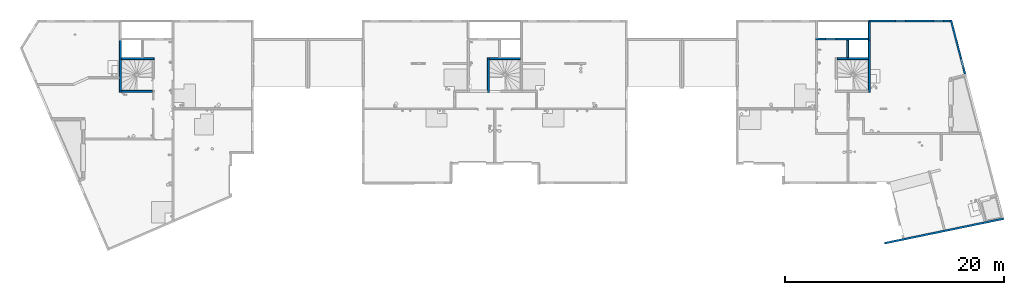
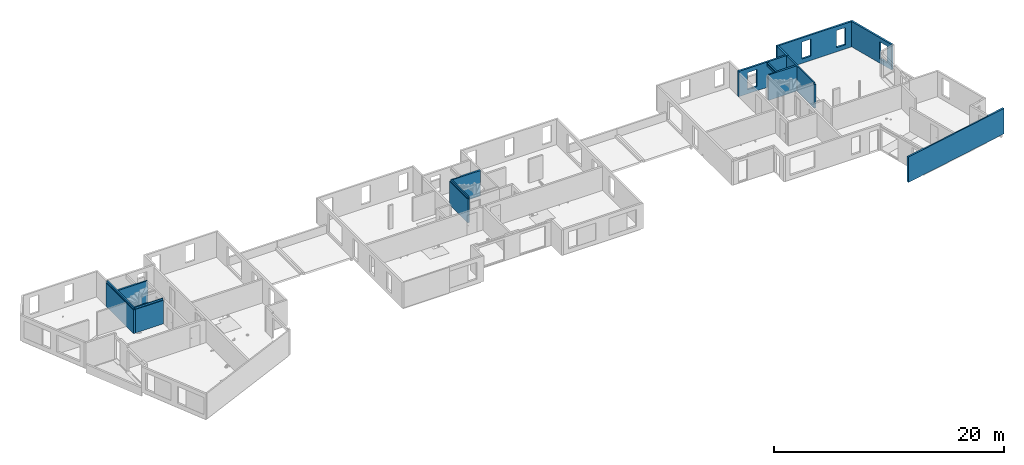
# One storey, part 16 of 24: 13 walls, 9 openings.
"""IFC2X3 building model written with IfcOpenShell, lengths in centimetres."""

import ifcopenshell
import ifcopenshell.guid

model = None  # the IFC model being written
_history = None  # IfcOwnerHistory: only IFC2X3 demands one
_inside = {}  # id of a spatial element -> (the spatial element, [elements in it])
_under = {}  # id of a project, library or spatial element -> (it, [spatial elements below it])
_declared = {}  # id of a project -> (the project, [libraries it declares])
_typed = {}  # id of a type object -> (the type object, [elements of that type])
_made_of = {}  # id of a material, layer set ... -> (it, [elements and type objects made of it])


def new_model(schema):
    """Start an empty IFC model of exactly this schema.

    Asked for "IFC4X3", IfcOpenShell would pick the latest addendum, in which some entities
    have other attributes; the version numbers below select the first issue.
    IFC2X3 requires an IfcOwnerHistory on every rooted entity: one is made here for all.
    """
    global model, _history
    if schema == "IFC4X3":
        model = ifcopenshell.file(schema_version=(4, 3, 0, 0))
    else:
        model = ifcopenshell.file(schema=schema)
    _inside.clear()
    _under.clear()
    _declared.clear()
    _typed.clear()
    _made_of.clear()
    _history = None
    if model.schema == "IFC2X3":
        org = make("IfcOrganization", Name="unknown")
        user = make(
            "IfcPersonAndOrganization",
            ThePerson=make("IfcPerson", FamilyName="unknown"),
            TheOrganization=org,
        )
        app = make(
            "IfcApplication",
            ApplicationDeveloper=org,
            Version="unknown",
            ApplicationFullName="unknown",
            ApplicationIdentifier="unknown",
        )
        _history = make(
            "IfcOwnerHistory",
            OwningUser=user,
            OwningApplication=app,
            ChangeAction="ADDED",
            CreationDate=0,
        )
    return model


def make(cls, **values):
    """One entity of the class cls with the attributes given. An attribute that is None is left unset."""
    return model.create_entity(
        cls, **{name: value for name, value in values.items() if value is not None}
    )


def entity(cls, *values):
    """Any entity or typed value of the class cls, its attributes in the order of the schema. None: left unset."""
    e = model.create_entity(cls)
    for i, value in enumerate(values):
        if value is not None:
            e[i] = value
    return e


def rooted(cls, **values):
    """An entity with a GlobalId (a new one), such as an element, a storey or a relation."""
    return make(cls, GlobalId=ifcopenshell.guid.new(), OwnerHistory=_history, **values)


def si_unit(unit_type, name, prefix=None):
    """IfcSIUnit, for example si_unit("LENGTHUNIT", "METRE", prefix="MILLI")."""
    return make("IfcSIUnit", UnitType=unit_type, Prefix=prefix, Name=name)


def converted_unit(unit_type, name, factor, base, dimensions=None, offset=None):
    """IfcConversionBasedUnit, such as the inch: factor (a typed value) times the base unit."""
    return make(
        "IfcConversionBasedUnit"
        if offset is None
        else "IfcConversionBasedUnitWithOffset",
        ConversionOffset=offset,
        Dimensions=None
        if dimensions is None
        else entity("IfcDimensionalExponents", *dimensions),
        UnitType=unit_type,
        Name=name,
        ConversionFactor=make(
            "IfcMeasureWithUnit", ValueComponent=factor, UnitComponent=base
        ),
    )


def derived_unit(unit_type, elements):
    """IfcDerivedUnit: a product of units, each with its exponent."""
    return make(
        "IfcDerivedUnit",
        Elements=[
            make("IfcDerivedUnitElement", Unit=unit, Exponent=power)
            for unit, power in elements
        ],
        UnitType=unit_type,
    )


def assignment(units):
    """IfcUnitAssignment: the units of a project."""
    return None if units is None else make("IfcUnitAssignment", Units=units)


def point(xyz):
    """IfcCartesianPoint."""
    return None if xyz is None else make("IfcCartesianPoint", Coordinates=xyz)


def direction(xyz):
    """IfcDirection."""
    return None if xyz is None else make("IfcDirection", DirectionRatios=xyz)


def frame(location, z_axis=None, x_axis=None):
    """IfcAxis2Placement3D, a coordinate frame: its origin and axes. An axis left out is left unset."""
    return make(
        "IfcAxis2Placement3D",
        Location=point(location),
        Axis=direction(z_axis),
        RefDirection=direction(x_axis),
    )


def frame_2d(location, x_axis=None):
    """IfcAxis2Placement2D, a coordinate frame in the plane: its origin and x axis."""
    return make(
        "IfcAxis2Placement2D", Location=point(location), RefDirection=direction(x_axis)
    )


def origin():
    """The frame at (0, 0, 0) with its axes left unset."""
    return frame((0.0, 0.0, 0.0))


def place(relative_to, where):
    """IfcLocalPlacement: puts the frame where relative to a parent placement (None: the world)."""
    return make(
        "IfcLocalPlacement", PlacementRelTo=relative_to, RelativePlacement=where
    )


def context(
    kind, dimensions, precision=None, world=None, true_north=None, identifier=None
):
    """IfcGeometricRepresentationContext, for example the 3D "Model" context."""
    return make(
        "IfcGeometricRepresentationContext",
        ContextIdentifier=identifier,
        ContextType=kind,
        CoordinateSpaceDimension=dimensions,
        Precision=precision,
        WorldCoordinateSystem=world,
        TrueNorth=true_north,
    )


def subcontext(parent, identifier, kind, view, scale=None):
    """IfcGeometricRepresentationSubContext, for example "Body" below "Model"."""
    return make(
        "IfcGeometricRepresentationSubContext",
        ContextIdentifier=identifier,
        ContextType=kind,
        ParentContext=parent,
        TargetScale=scale,
        TargetView=view,
    )


def project(units=None, contexts=None):
    """IfcProject with its units and contexts."""
    return rooted(
        "IfcProject",
        Name="project",
        RepresentationContexts=contexts,
        UnitsInContext=assignment(units),
    )


def spatial(cls, under=None, at=None, **own):
    """A site, building, storey or space (cls), placed at a placement, below another one or the project."""
    s = rooted(cls, ObjectPlacement=at, **own)
    if under is not None:
        _under.setdefault(under.id(), (under, []))[1].append(s)
    return s


def polyline(points):
    """IfcPolyline through the points."""
    return make("IfcPolyline", Points=[point(p) for p in points])


def profile(cls, at=None, kind="AREA", **sizes):
    """A parametric profile (cls). Its sizes go by their IFC names, for example OverallWidth=200.0."""
    return make(cls, ProfileType=kind, Position=at, **sizes)


def rectangle(**sizes):
    """IfcRectangleProfileDef."""
    return profile("IfcRectangleProfileDef", **sizes)


def outline(outer, holes=None, kind="AREA"):
    """IfcArbitraryClosedProfileDef: a profile drawn as a closed curve; with holes, ...WithVoids."""
    if holes is None:
        return make("IfcArbitraryClosedProfileDef", ProfileType=kind, OuterCurve=outer)
    return make(
        "IfcArbitraryProfileDefWithVoids",
        ProfileType=kind,
        OuterCurve=outer,
        InnerCurves=holes,
    )


def extrude(swept, where, along, depth):
    """IfcExtrudedAreaSolid: the profile swept, set in the frame where, extruded along a direction by depth."""
    return make(
        "IfcExtrudedAreaSolid",
        SweptArea=swept,
        Position=where,
        ExtrudedDirection=direction(along),
        Depth=depth,
    )


def clip(a, b, op="DIFFERENCE"):
    """IfcBooleanClippingResult: the solid a cut by the half space b."""
    return make(
        "IfcBooleanClippingResult", Operator=op, FirstOperand=a, SecondOperand=b
    )


def bounded_halfspace(plane, agree, where, boundary):
    """IfcPolygonalBoundedHalfSpace: a half space limited to a polygon's prism."""
    return make(
        "IfcPolygonalBoundedHalfSpace",
        BaseSurface=make("IfcPlane", Position=plane),
        AgreementFlag=agree,
        Position=where,
        PolygonalBoundary=boundary,
    )


def faces_of(points, faces, orient=None, outer=None):
    """IfcFace entities. A face is a list of loops; a loop is a list of indices into points, from 0.

    orient and outer hold one flag for each loop. By default every Orientation is true, the
    first loop of a face is its IfcFaceOuterBound and the others are IfcFaceBound.
    """
    made = []
    for i, loops in enumerate(faces):
        bounds = []
        for j, loop in enumerate(loops):
            is_outer = j == 0 if outer is None else outer[i][j]
            bounds.append(
                make(
                    "IfcFaceOuterBound" if is_outer else "IfcFaceBound",
                    Bound=make("IfcPolyLoop", Polygon=[points[k] for k in loop]),
                    Orientation=True if orient is None else orient[i][j],
                )
            )
        made.append(make("IfcFace", Bounds=bounds))
    return made


def faceted_brep(points, faces, orient=None, outer=None, voids=None):
    """IfcFacetedBrep: a solid bounded by flat faces; with voids (closed shells), ...WithVoids."""
    shared = [point(p) for p in points]
    hull = make("IfcClosedShell", CfsFaces=faces_of(shared, faces, orient, outer))
    if voids is None:
        return make("IfcFacetedBrep", Outer=hull)
    return make(
        "IfcFacetedBrepWithVoids",
        Outer=hull,
        Voids=[
            make(cls, CfsFaces=faces_of(shared, fs, o, b)) for cls, fs, o, b in voids
        ],
    )


def shape(context_of_items, identifier, shape_type, items):
    """IfcShapeRepresentation: the items that make up one representation, for example the "Body"."""
    return make(
        "IfcShapeRepresentation",
        ContextOfItems=context_of_items,
        RepresentationIdentifier=identifier,
        RepresentationType=shape_type,
        Items=items,
    )


def material(Name=None, Category=None):
    """IfcMaterial."""
    return make("IfcMaterial", Name=Name, Category=Category)


def layer(
    of_material, thickness, ventilated=None, Name=None, Category=None, Priority=None
):
    """IfcMaterialLayer: one layer of a wall or slab, of a material (None: an air gap)."""
    return make(
        "IfcMaterialLayer",
        Material=of_material,
        LayerThickness=thickness,
        IsVentilated=ventilated,
        Name=Name,
        Category=Category,
        Priority=Priority,
    )


def layer_set(layers, Name=None):
    """IfcMaterialLayerSet."""
    return make("IfcMaterialLayerSet", MaterialLayers=layers, LayerSetName=Name)


def layer_usage(for_layer_set, set_direction, sense, offset, extent=None):
    """IfcMaterialLayerSetUsage: how a layer set lies in its element."""
    return make(
        "IfcMaterialLayerSetUsage",
        ForLayerSet=for_layer_set,
        LayerSetDirection=set_direction,
        DirectionSense=sense,
        OffsetFromReferenceLine=offset,
        ReferenceExtent=extent,
    )


def made_of(thing, what):
    """Note that an element or type object is made of a material, layer set ...; save() writes the relation."""
    if what is not None:
        _made_of.setdefault(what.id(), (what, []))[1].append(thing)
    return thing


def type_object(cls, material=None, **own):
    """A type object (cls), such as IfcWallType, which elements share."""
    return made_of(rooted(cls, **own), material)


def element(
    cls,
    number,
    at=None,
    inside=None,
    cuts=None,
    type_object=None,
    material=None,
    context=None,
    identifier="Body",
    shape_type=None,
    held_by="IfcProductDefinitionShape",
    body=None,
    shapes=None,
    **own,
):
    """One element of the class cls, such as IfcWall. Its Tag is "e" and its number.

    at: its placement. inside: the storey or other place that contains it. cuts: it is an
    opening in that element (IfcRelVoidsElement). A single representation is given by context,
    identifier, shape_type and body (its items); several are given by shapes. held_by: the class
    of the entity that holds the representations. save() writes the other relations.
    """
    e = rooted(cls, Tag="e%d" % number, ObjectPlacement=at, **own)
    if body is not None:
        shapes = [shape(context, identifier, shape_type, body)]
    if shapes is not None:
        e.Representation = make(held_by, Representations=shapes)
    if inside is not None:
        _inside.setdefault(inside.id(), (inside, []))[1].append(e)
    if cuts is not None:
        rooted(
            "IfcRelVoidsElement", RelatingBuildingElement=cuts, RelatedOpeningElement=e
        )
    if type_object is not None:
        _typed.setdefault(type_object.id(), (type_object, []))[1].append(e)
    return made_of(e, material)


def aggregate(whole, parts):
    """IfcRelAggregates: a whole, such as a stair, and the parts it consists of."""
    return rooted("IfcRelAggregates", RelatingObject=whole, RelatedObjects=parts)


def save(model, path):
    """Write the relations noted so far, then the file.

    IfcRelAggregates (storeys below a building ...), IfcRelContainedInSpatialStructure (elements
    in a storey), IfcRelDefinesByType, IfcRelAssociatesMaterial and IfcRelDeclares: one each for
    every whole, place, type object, material and project.
    """
    for whole, parts in _under.values():
        aggregate(whole, parts)
    for where, things in _inside.values():
        rooted(
            "IfcRelContainedInSpatialStructure",
            RelatedElements=things,
            RelatingStructure=where,
        )
    for kind, things in _typed.values():
        rooted("IfcRelDefinesByType", RelatedObjects=things, RelatingType=kind)
    for what, things in _made_of.values():
        rooted("IfcRelAssociatesMaterial", RelatedObjects=things, RelatingMaterial=what)
    for by, libraries in _declared.values():
        rooted("IfcRelDeclares", RelatingContext=by, RelatedDefinitions=libraries)
    model.write(path)


model = new_model("IFC2X3")

# Units and contexts
model_context = context("Model", 3, precision=0.001, world=origin(), true_north=direction((6.12303176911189e-17, 1.0)))
body_context = subcontext(model_context, "Body", "Model", "MODEL_VIEW")
ifc_project = project(units=[si_unit("LENGTHUNIT", "METRE", prefix="CENTI"), si_unit("AREAUNIT", "SQUARE_METRE"), si_unit("VOLUMEUNIT", "CUBIC_METRE"), converted_unit("PLANEANGLEUNIT", "DEGREE", entity("IfcRatioMeasure", 0.0174532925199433), si_unit("PLANEANGLEUNIT", "RADIAN"), dimensions=[0, 0, 0, 0, 0, 0, 0]), si_unit("MASSUNIT", "GRAM", prefix="KILO"), derived_unit("MASSDENSITYUNIT", [(si_unit("MASSUNIT", "GRAM", prefix="KILO"), 1), (si_unit("LENGTHUNIT", "METRE"), -3)]), si_unit("TIMEUNIT", "SECOND"), si_unit("FREQUENCYUNIT", "HERTZ"), si_unit("THERMODYNAMICTEMPERATUREUNIT", "DEGREE_CELSIUS"), derived_unit("THERMALTRANSMITTANCEUNIT", [(si_unit("MASSUNIT", "GRAM", prefix="KILO"), 1), (si_unit("THERMODYNAMICTEMPERATUREUNIT", "KELVIN"), -1), (si_unit("TIMEUNIT", "SECOND"), -3)]), derived_unit("VOLUMETRICFLOWRATEUNIT", [(si_unit("LENGTHUNIT", "METRE"), 3), (si_unit("TIMEUNIT", "SECOND"), -1)]), si_unit("ELECTRICCURRENTUNIT", "AMPERE"), si_unit("ELECTRICVOLTAGEUNIT", "VOLT"), si_unit("POWERUNIT", "WATT"), si_unit("FORCEUNIT", "NEWTON"), si_unit("ILLUMINANCEUNIT", "LUX"), si_unit("LUMINOUSFLUXUNIT", "LUMEN"), si_unit("LUMINOUSINTENSITYUNIT", "CANDELA"), derived_unit("USERDEFINED", [(si_unit("MASSUNIT", "GRAM", prefix="KILO"), -1), (si_unit("LENGTHUNIT", "METRE"), -2), (si_unit("TIMEUNIT", "SECOND"), 3), (si_unit("LUMINOUSFLUXUNIT", "LUMEN"), 1)]), derived_unit("LINEARVELOCITYUNIT", [(si_unit("LENGTHUNIT", "METRE"), 1), (si_unit("TIMEUNIT", "SECOND"), -1)]), si_unit("PRESSUREUNIT", "PASCAL"), derived_unit("USERDEFINED", [(si_unit("LENGTHUNIT", "METRE"), -2), (si_unit("MASSUNIT", "GRAM", prefix="KILO"), 1), (si_unit("TIMEUNIT", "SECOND"), -2)])], contexts=[model_context])

# Site, building, storey
site_placement = place(None, origin())
site = spatial("IfcSite", under=ifc_project, at=site_placement, Name="Default", CompositionType="ELEMENT")
building_placement = place(site_placement, origin())
building = spatial("IfcBuilding", under=site, at=building_placement, Name="CAGE 03", CompositionType="ELEMENT")
storey_placement = place(building_placement, frame((0.0, 0.0, 880.0)))
storey = spatial("IfcBuildingStorey", under=building, at=storey_placement, Name="R+3", CompositionType="ELEMENT", Elevation=880.0)

# Wall, openings
ifc_material = material(Name="Béton, C25/30")
ifc_layer = layer(ifc_material, 18.0)
ifc_layer_set = layer_set([ifc_layer], Name="Mur de base:Voile BA 18")
ifc_layer_usage_1 = layer_usage(ifc_layer_set, "AXIS2", "NEGATIVE", 9.0)
wall_type_1 = type_object("IfcWallType", Name="Mur de base:Voile BA 18", PredefinedType="STANDARD", material=ifc_layer_set)
wall_1_placement = place(storey_placement, frame((11373.0570193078, 4801.46871667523, 0.0), z_axis=(0.0, 0.0, 1.0), x_axis=(-0.252679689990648, 0.967549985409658, 0.0)))
wall_1 = element("IfcWallStandardCase", 1, at=wall_1_placement, inside=storey, type_object=wall_type_1, material=ifc_layer_usage_1, Name="Mur de base:Voile BA 18", ObjectType="Mur de base:Voile BA 18", context=body_context, shape_type="SweptSolid", body=[
    extrude(outline(polyline([(506.348860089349, -9.0), (511.049634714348, 9.0), (492.445944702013, 9.0), (0.0, 9.0), (0.0, -9.0), (506.348860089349, -9.0)])), origin(), (0.0, 0.0, 1.0), 270.0),
])
opening_1_placement = place(wall_1_placement, origin())
element("IfcOpeningElement", 2, at=opening_1_placement, cuts=wall_1, Name="Mur de base:Voile BA 18", ObjectType="Recess", context=body_context, shape_type="SweptSolid", body=[
    extrude(rectangle(XDim=181.0, YDim=184.0, at=frame_2d((-4.2632564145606e-13, -5.6843418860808e-14), x_axis=(0.0, 1.0))), frame((238.0, -9.0, 135.5), z_axis=(0.0, 1.0, 0.0), x_axis=(1.0, 0.0, 0.0)), (0.0, 0.0, 1.0), 1.99999999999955),
])
opening_2_placement = place(wall_1_placement, frame((-1771.9204648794, 12217.2347799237, 0.0), z_axis=(0.0, 0.0, 1.0), x_axis=(-0.252679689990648, -0.967549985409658, 0.0)))
element("IfcOpeningElement", 3, at=opening_2_placement, cuts=wall_1, Name="Mur de base:Voile BA 18", ObjectType="Opening", context=body_context, shape_type="SweptSolid", body=[
    extrude(rectangle(XDim=181.0, YDim=91.0000000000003, at=frame_2d((-5.6843418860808e-14, -2.16715534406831e-13), x_axis=(1.0, 0.0))), frame((11503.8252781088, 4939.48999217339, 135.5), z_axis=(-0.967549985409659, -0.252679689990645, 0.0), x_axis=(0.0, 0.0, 1.0)), (0.0, 0.0, 1.0), 304.8),
])

ifc_layer_usage_2 = layer_usage(ifc_layer_set, "AXIS2", "NEGATIVE", 9.0)
wall_2_placement = place(storey_placement, frame((11239.9179807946, 5284.66066607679, 0.0), z_axis=(0.0, 0.0, 1.0), x_axis=(-1.0, 0.0, 0.0)))
wall_2 = element("IfcWallStandardCase", 4, at=wall_2_placement, inside=storey, type_object=wall_type_1, material=ifc_layer_usage_2, Name="Mur de base:Voile BA 18", ObjectType="Mur de base:Voile BA 18", context=body_context, shape_type="SweptSolid", body=[
    extrude(outline(polyline([(749.552160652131, -9.0), (749.552160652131, 9.0), (731.552160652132, 9.0), (0.0, 9.0), (4.70077462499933, -9.0), (749.552160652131, -9.0)])), origin(), (0.0, 0.0, 1.0), 270.0),
])
opening_3_placement = place(wall_2_placement, origin())
element("IfcOpeningElement", 5, at=opening_3_placement, cuts=wall_2, Name="Mur de base:Voile BA 18", ObjectType="Recess", context=body_context, shape_type="SweptSolid", body=[
    extrude(rectangle(XDim=181.0, YDim=184.0, at=frame_2d((0.0, -5.6843418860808e-14), x_axis=(0.0, 1.0))), frame((591.552160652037, -9.0, 135.5), z_axis=(0.0, 1.0, 0.0), x_axis=(1.0, 0.0, 0.0)), (0.0, 0.0, 1.0), 1.99999999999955),
])
opening_4_placement = place(wall_2_placement, origin())
element("IfcOpeningElement", 6, at=opening_4_placement, cuts=wall_2, Name="Mur de base:Voile BA 18", ObjectType="Recess", context=body_context, shape_type="SweptSolid", body=[
    extrude(rectangle(XDim=181.0, YDim=184.0, at=frame_2d((0.0, -5.6843418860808e-14), x_axis=(0.0, 1.0))), frame((246.55216065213, -9.0, 135.499999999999), z_axis=(0.0, 1.0, 0.0), x_axis=(1.0, 0.0, 0.0)), (0.0, 0.0, 1.0), 1.99999999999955),
])
opening_5_placement = place(wall_2_placement, frame((11239.9179807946, 5284.66066607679, 0.0), z_axis=(0.0, 0.0, 1.0), x_axis=(-1.0, 0.0, 0.0)))
element("IfcOpeningElement", 7, at=opening_5_placement, cuts=wall_2, Name="Mur de base:Voile BA 18", ObjectType="Opening", context=body_context, shape_type="SweptSolid", body=[
    extrude(rectangle(XDim=181.0, YDim=91.0000000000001, at=frame_2d((-1.73372427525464e-12, 0.0), x_axis=(0.0, 1.0))), frame((10785.8658201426, 5428.06066607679, 135.5), z_axis=(0.0, -1.0, 0.0), x_axis=(1.0, 0.0, 0.0)), (0.0, 0.0, 1.0), 304.8),
])
opening_6_placement = place(wall_2_placement, frame((11239.9179807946, 5284.66066607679, 0.0), z_axis=(0.0, 0.0, 1.0), x_axis=(-1.0, 0.0, 0.0)))
element("IfcOpeningElement", 8, at=opening_6_placement, cuts=wall_2, Name="Mur de base:Voile BA 18", ObjectType="Opening", context=body_context, shape_type="SweptSolid", body=[
    extrude(rectangle(XDim=181.0, YDim=91.0000000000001, at=frame_2d((0.0, 0.0), x_axis=(0.0, 1.0))), frame((11130.8658201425, 5428.06066607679, 135.5), z_axis=(0.0, -1.0, 0.0), x_axis=(1.0, 0.0, 0.0)), (0.0, 0.0, 1.0), 304.8),
])

# Wall
ifc_layer_usage_3 = layer_usage(ifc_layer_set, "AXIS2", "POSITIVE", -9.0)
wall_3_placement = place(storey_placement, frame((10499.3658201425, 5275.66066607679, 0.0), z_axis=(0.0, 0.0, 1.0), x_axis=(0.0, -1.0, 0.0)))
element("IfcWallStandardCase", 9, at=wall_3_placement, inside=storey, type_object=wall_type_1, material=ifc_layer_usage_3, Name="Mur de base:Voile BA 18", ObjectType="Mur de base:Voile BA 18", context=body_context, shape_type="SweptSolid", body=[
    extrude(rectangle(XDim=164.999999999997, YDim=17.9999999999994, at=frame_2d((82.4999999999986, 1.11022302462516e-13), x_axis=(-1.0, 0.0))), origin(), (0.0, 0.0, 1.0), 270.0),
])

# Wall, openings
ifc_layer_usage_4 = layer_usage(ifc_layer_set, "AXIS2", "POSITIVE", -9.0)
wall_4_placement = place(storey_placement, frame((10490.3658201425, 5119.66066607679, 0.0), z_axis=(0.0, 0.0, 1.0), x_axis=(-1.0, 0.0, 0.0)))
wall_4 = element("IfcWallStandardCase", 10, at=wall_4_placement, inside=storey, type_object=wall_type_1, material=ifc_layer_usage_4, Name="Mur de base:Voile BA 18", ObjectType="Mur de base:Voile BA 18", context=body_context, shape_type="SweptSolid", body=[
    extrude(rectangle(XDim=480.0, YDim=17.9999999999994, at=frame_2d((240.0, -1.90958360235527e-13), x_axis=(-1.0, 0.0))), origin(), (0.0, 0.0, 1.0), 270.0),
])
opening_7_placement = place(wall_4_placement, origin())
element("IfcOpeningElement", 11, at=opening_7_placement, cuts=wall_4, Name="Mur de base:Voile BA 18", ObjectType="Opening", context=body_context, shape_type="SweptSolid", body=[
    extrude(rectangle(XDim=227.0, YDim=17.9999999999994, at=frame_2d((0.0, 1.63424829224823e-13), x_axis=(0.0, 1.0))), frame((189.0, 9.0, 113.5), z_axis=(0.0, 1.0, 0.0), x_axis=(-1.0, 0.0, 0.0)), (0.0, 0.0, 1.0), 160.0),
])
opening_8_placement = place(wall_4_placement, frame((10490.3658201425, 5119.66066607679, 0.0), z_axis=(0.0, 0.0, 1.0), x_axis=(-1.0, 0.0, 0.0)))
element("IfcOpeningElement", 12, at=opening_8_placement, cuts=wall_4, Name="Mur de base:Voile BA 18", ObjectType="Opening", context=body_context, shape_type="SweptSolid", body=[
    extrude(rectangle(XDim=181.0, YDim=95.0000000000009, at=frame_2d((8.66862137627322e-13, 0.0), x_axis=(0.0, 1.0))), frame((10145.8658201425, 5263.06066607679, 135.5), z_axis=(0.0, -1.0, 0.0), x_axis=(1.0, 0.0, 0.0)), (0.0, 0.0, 1.0), 304.8),
])

# Wall, opening
ifc_layer_usage_5 = layer_usage(ifc_layer_set, "AXIS2", "NEGATIVE", 9.0)
wall_5_placement = place(storey_placement, frame((10301.3658201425, 5110.66066607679, 227.0), z_axis=(0.0, 0.0, 1.0), x_axis=(0.0, -1.0, 0.0)))
wall_5 = element("IfcWallStandardCase", 13, at=wall_5_placement, inside=storey, type_object=wall_type_1, material=ifc_layer_usage_5, Name="Mur de base:Voile BA 18", ObjectType="Mur de base:Voile BA 18", context=body_context, shape_type="Clipping", body=[
    clip(clip(extrude(rectangle(XDim=160.000000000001, YDim=17.9999999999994, at=frame_2d((80.0000000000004, 0.0), x_axis=(-1.0, 0.0))), origin(), (0.0, 0.0, 1.0), 36.0), bounded_halfspace(frame((160.0, -6.0, 23.0), z_axis=(0.0, 0.0, -1.0), x_axis=(1.0, 0.0, 0.0)), True, frame((160.0, -6.0, 23.0), z_axis=(0.0, 0.0, -1.0), x_axis=(1.0, 0.0, 0.0)), polyline([(0.0, 0.0), (0.0, 3.0), (-160.0, 3.0), (-160.0, 0.0), (0.0, 0.0)]))), bounded_halfspace(frame((0.0, -6.0, 23.0), z_axis=(0.0, 1.0, 0.0), x_axis=(0.0, 0.0, 1.0)), True, frame((0.0, -6.0, 23.0), z_axis=(0.0, 1.0, 0.0), x_axis=(0.0, 0.0, 1.0)), polyline([(0.0, 0.0), (13.0, 0.0), (13.0, 160.0), (0.0, 160.0), (0.0, 0.0)]))),
])
opening_9_placement = place(wall_5_placement, frame((5110.66066607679, -10301.3658201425, -227.0), z_axis=(0.0, 0.0, 1.0), x_axis=(0.0, 1.0, 0.0)))
element("IfcOpeningElement", 14, at=opening_9_placement, cuts=wall_5, Name="Mur de base:Voile BA 18", ObjectType="Opening", context=body_context, shape_type="SweptSolid", body=[
    extrude(rectangle(XDim=227.0, YDim=160.0, at=frame_2d((0.0, 1.63424829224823e-13), x_axis=(0.0, 1.0))), frame((10157.9658201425, 5030.66066607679, 113.5), z_axis=(1.0, 0.0, 0.0), x_axis=(0.0, 1.0, 0.0)), (0.0, 0.0, 1.0), 304.8),
])

# Walls
wall_type_2 = type_object("IfcWallType", Name="Mur de base:premur 18", PredefinedType="NOTDEFINED")
wall_6_placement = place(storey_placement, frame((3672.36582014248, 4941.66066607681, 0.0)))
element("IfcWall", 15, at=wall_6_placement, inside=storey, type_object=wall_type_2, Name="Mur de base:premur 18", ObjectType="Mur de base:premur 18", context=body_context, shape_type="Brep", body=[
    faceted_brep([(0.0, -9.0, 0.0), (282.0, -9.0, 0.0), (294.5, -9.0, 0.0), (300.0, -9.0, 0.0), (300.0, -9.0, 250.0), (294.5, -9.0, 250.0), (294.5, -9.0, 270.0), (282.0, -9.0, 270.0), (0.0, -9.0, 270.0), (300.0, 9.0, 0.0), (195.0, 9.0, 0.0), (0.0, 9.0, 0.0), (0.0, 9.0, 270.0), (195.0, 9.0, 270.0), (195.0, 9.0, 250.0), (300.0, 9.0, 250.0), (294.5, 3.50000000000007, 270.0), (195.0, 3.50000000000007, 270.0), (195.0, 3.50000000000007, 250.0), (294.5, 3.50000000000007, 250.0)], [[[0, 1, 2, 3, 4, 5, 6, 7, 8]], [[9, 10, 11, 12, 13, 14, 15]], [[3, 2, 1, 0, 11, 10, 9]], [[12, 8, 7, 6, 16, 17, 13]], [[3, 9, 15, 4]], [[0, 8, 12, 11]], [[18, 19, 5, 4, 15, 14]], [[19, 18, 17, 16]], [[19, 16, 6, 5]], [[17, 18, 14, 13]]]),
])
wall_7_placement = place(storey_placement, frame((3663.36582014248, 5110.66066607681, 0.0), z_axis=(0.0, 0.0, 1.0), x_axis=(0.0, -1.0, 0.0)))
element("IfcWall", 16, at=wall_7_placement, inside=storey, type_object=wall_type_2, Name="Mur de base:premur 18", ObjectType="Mur de base:premur 18", context=body_context, shape_type="Brep", body=[
    faceted_brep([(0.0, -9.0, 0.0), (335.5, -9.0, 0.0), (351.5, -9.0, 0.0), (478.0, -9.0, 0.0), (478.0, -9.0, 250.0), (351.5, -9.0, 250.0), (335.500000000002, -9.0, 250.0), (312.500000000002, -9.0, 250.0), (0.0, -9.0, 250.0), (478.0, 9.0, 0.0), (472.5, 9.0, 0.0), (460.0, 9.0, 0.0), (178.0, 9.0, 0.0), (160.0, 9.0, 0.0), (0.0, 9.0, 0.0), (0.0, 9.0, 270.0), (160.0, 9.0, 270.0), (178.0, 9.0, 270.0), (460.0, 9.0, 270.0), (472.499999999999, 9.0, 270.0), (472.499999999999, 9.0, 250.0), (478.0, 9.0, 250.0), (0.0, -3.50000000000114, 0.0), (0.0, -3.50000000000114, 270.0), (472.499999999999, -3.50000000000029, 270.0), (478.0, -2.0, 250.0), (0.0, -3.50000000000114, 250.0), (472.499999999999, -3.50000000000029, 250.0)], [[[0, 1, 2, 3, 4, 5, 6, 7, 8]], [[9, 10, 11, 12, 13, 14, 15, 16, 17, 18, 19, 20, 21]], [[3, 2, 1, 0, 22, 14, 13, 12, 11, 10, 9]], [[19, 18, 17, 16, 15, 23, 24]], [[3, 9, 21, 25, 4]], [[15, 14, 22, 0, 8, 26, 23]], [[27, 26, 8, 7, 6, 5, 4, 25, 21, 20]], [[26, 27, 24, 23]], [[24, 27, 20, 19]]]),
])
wall_8_placement = place(storey_placement, frame((3672.36582014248, 4641.66066607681, 0.0)))
element("IfcWall", 17, at=wall_8_placement, inside=storey, type_object=wall_type_2, Name="Mur de base:premur 18", ObjectType="Mur de base:premur 18", context=body_context, shape_type="Brep", body=[
    faceted_brep([(0.0, -9.0, 0.0), (282.0, -9.0, 0.0), (282.0, -9.0, 250.0), (49.0, -9.0, 250.0), (0.0, -9.0, 250.0), (282.0, 9.0, 0.0), (141.0, 9.0, 0.0), (0.0, 9.0, 0.0), (0.0, 9.0, 270.0), (141.0, 9.0, 270.0), (141.0, 9.0, 250.0), (282.0, 9.0, 250.0), (282.0, 9.0, 210.0), (0.0, -3.50000000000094, 0.0), (282.0, 3.50000000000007, 0.0), (282.0, -3.50000000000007, 0.0), (0.0, -3.50000000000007, 270.0), (282.0, -3.4999999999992, 270.0), (282.0, 3.50000000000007, 270.0), (141.0, 3.50000000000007, 270.0), (0.0, -3.50000000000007, 250.0), (282.0, 3.50000000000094, 250.0), (282.0, -3.4999999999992, 250.0), (141.0, 3.50000000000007, 250.0)], [[[0, 1, 2, 3, 4]], [[5, 6, 7, 8, 9, 10, 11, 12]], [[1, 0, 13, 7, 6, 5, 14, 15]], [[16, 17, 18, 19, 9, 8]], [[8, 7, 13, 0, 4, 20, 16]], [[1, 15, 14, 5, 12, 11, 21, 18, 17, 22, 2]], [[3, 2, 22, 20, 4]], [[17, 16, 20, 22]], [[23, 21, 11, 10]], [[19, 23, 10, 9]], [[23, 19, 18, 21]]]),
])
wall_9_placement = place(storey_placement, frame((7022.36582014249, 4632.6606660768, 0.0), z_axis=(0.0, 0.0, 1.0), x_axis=(0.0, 1.0, 0.0)))
element("IfcWall", 18, at=wall_9_placement, inside=storey, type_object=wall_type_2, Name="Mur de base:premur 18", ObjectType="Mur de base:premur 18", context=body_context, shape_type="Brep", body=[
    faceted_brep([(0.0, -9.0, 0.0), (5.50000000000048, -9.0, 0.0), (300.0, -9.0, 0.0), (312.499999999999, -9.0, 0.0), (318.0, -9.0, 0.0), (318.0, -9.0, 250.0), (312.499999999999, -9.0, 250.0), (312.499999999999, -9.0, 270.0), (300.0, -9.0, 270.0), (12.5000000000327, -9.0, 270.0), (5.50000000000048, -9.0, 270.0), (5.50000000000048, -9.0, 250.0), (0.0, -9.0, 250.0), (0.0, -9.0, 210.0), (318.0, 9.0, 0.0), (0.0, 9.0, 0.0), (0.0, 9.0, 250.0), (318.0, 9.0, 250.0), (312.499999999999, 3.50000000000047, 270.0), (5.50000000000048, 3.50000000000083, 270.0), (5.50000000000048, 3.50000000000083, 250.0), (312.499999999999, 3.50000000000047, 250.0)], [[[0, 1, 2, 3, 4, 5, 6, 7, 8, 9, 10, 11, 12, 13]], [[14, 15, 16, 17]], [[4, 3, 2, 1, 0, 15, 14]], [[10, 9, 8, 7, 18, 19]], [[4, 14, 17, 5]], [[15, 0, 13, 12, 16]], [[20, 21, 6, 5, 17, 16, 12, 11]], [[21, 18, 7, 6]], [[21, 20, 19, 18]], [[19, 20, 11, 10]]]),
])
wall_10_placement = place(storey_placement, frame((7031.36582014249, 4941.6606660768, 0.0)))
element("IfcWall", 19, at=wall_10_placement, inside=storey, type_object=wall_type_2, Name="Mur de base:premur 18", ObjectType="Mur de base:premur 18", context=body_context, shape_type="Brep", body=[
    faceted_brep([(0.0, -9.0, 0.0), (282.0, -9.0, 0.0), (282.0, -9.0, 270.0), (0.0, -9.0, 270.0), (282.0, 9.0, 0.0), (87.0, 9.0, 0.0), (0.0, 9.0, 0.0), (0.0, 9.0, 250.0), (87.0, 9.0, 250.0), (87.0, 9.0, 270.0), (282.0, 9.0, 270.0), (0.0, 3.50000000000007, 0.0), (87.0, 3.50000000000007, 270.0), (0.0, 3.50000000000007, 270.0), (0.0, 3.50000000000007, 250.0), (87.0, 3.50000000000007, 250.0)], [[[0, 1, 2, 3]], [[4, 5, 6, 7, 8, 9, 10]], [[1, 0, 11, 6, 5, 4]], [[3, 2, 10, 9, 12, 13]], [[0, 3, 13, 14, 7, 6, 11]], [[2, 1, 4, 10]], [[15, 8, 7, 14]], [[12, 15, 14, 13]], [[15, 12, 9, 8]]]),
])
wall_11_placement = place(storey_placement, frame((10208.3658201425, 4941.66066607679, 0.0)))
element("IfcWall", 20, at=wall_11_placement, inside=storey, type_object=wall_type_2, Name="Mur de base:premur 18", ObjectType="Mur de base:premur 18", context=body_context, shape_type="Brep", body=[
    faceted_brep([(0.0, -9.0, 0.0), (282.0, -9.0, 0.0), (282.0, -9.0, 270.0), (0.0, -9.0, 270.0), (282.0, 9.0, 0.0), (87.0, 9.0, 0.0), (0.0, 9.0, 0.0), (0.0, 9.0, 250.0), (87.0, 9.0, 250.0), (87.0, 9.0, 270.0), (282.0, 9.0, 270.0), (0.0, 3.50000000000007, 0.0), (87.0, 3.50000000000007, 270.0), (0.0, 3.50000000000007, 270.0), (0.0, 3.50000000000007, 250.0), (87.0, 3.50000000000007, 250.0)], [[[0, 1, 2, 3]], [[4, 5, 6, 7, 8, 9, 10]], [[1, 0, 11, 6, 5, 4]], [[3, 2, 10, 9, 12, 13]], [[0, 3, 13, 14, 7, 6, 11]], [[2, 1, 4, 10]], [[14, 15, 8, 7]], [[12, 15, 14, 13]], [[15, 12, 9, 8]]]),
])
wall_12_placement = place(storey_placement, frame((10637.7468620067, 3255.95402323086, 0.0), z_axis=(0.0, 0.0, 1.0), x_axis=(0.979414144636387, 0.201861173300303, 0.0)))
element("IfcWall", 21, at=wall_12_placement, inside=storey, type_object=wall_type_2, Name="Mur de base:premur 18", ObjectType="Mur de base:premur 18", context=body_context, shape_type="Brep", body=[
    faceted_brep([(0.0, -9.0, 0.0), (1112.01416291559, -9.0, 0.0), (1112.01416291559, -9.0, 270.0), (0.0, -9.0, 270.0), (1112.01416291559, 9.0, 0.0), (946.789185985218, 9.0, 0.0), (928.764643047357, 9.0, 0.0), (569.775829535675, 9.0, 0.0), (551.751286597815, 9.0, 0.0), (185.252246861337, 9.0, 0.0), (167.227703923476, 9.0, 0.0), (0.0, 9.0, 0.0), (0.0, 9.0, 270.0), (167.227703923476, 9.0, 270.0), (185.252246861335, 9.0, 270.0), (185.252246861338, 9.0, 250.0), (551.751286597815, 9.0, 250.0), (569.775829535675, 9.0, 250.0), (928.764643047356, 9.0, 250.0), (928.764643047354, 9.0, 270.0), (946.789185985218, 9.0, 270.0), (1112.01416291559, 9.0, 270.0), (929.05195434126, 3.50000000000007, 270.0), (185.53955815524, 3.5000000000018, 270.0), (185.53955815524, 3.5000000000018, 250.0), (929.05195434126, 3.49999999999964, 250.0)], [[[0, 1, 2, 3]], [[4, 5, 6, 7, 8, 9, 10, 11, 12, 13, 14, 15, 16, 17, 18, 19, 20, 21]], [[1, 0, 11, 10, 9, 8, 7, 6, 5, 4]], [[2, 1, 4, 21]], [[3, 2, 21, 20, 19, 22, 23, 14, 13, 12]], [[0, 3, 12, 11]], [[24, 25, 18, 17, 16, 15]], [[25, 22, 19, 18]], [[25, 24, 23, 22]], [[23, 24, 15, 14]]]),
])
wall_13_placement = place(storey_placement, frame((10499.3658201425, 5110.66066607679, 0.0), z_axis=(0.0, 0.0, 1.0), x_axis=(0.0, -1.0, 0.0)))
element("IfcWall", 22, at=wall_13_placement, inside=storey, type_object=wall_type_2, Name="Mur de base:premur 18", ObjectType="Mur de base:premur 18", context=body_context, shape_type="Brep", body=[
    faceted_brep([(0.0, -9.0, 0.0), (160.0, -9.0, 0.0), (178.0, -9.0, 0.0), (460.0, -9.0, 0.0), (472.500000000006, -9.0, 0.0), (478.0, -9.0, 0.0), (478.0, -9.0, 250.0), (472.500000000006, -9.0, 250.0), (472.500000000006, -9.0, 270.0), (460.0, -9.0, 270.0), (178.0, -9.0, 270.0), (160.0, -9.0, 270.0), (0.0, -9.0, 270.0), (478.0, 9.0, 0.0), (391.0, 9.0, 0.0), (271.0, 9.0, 0.0), (0.0, 9.0, 0.0), (0.0, 9.0, 250.0), (398.0, 9.0, 250.0), (443.0, 9.0, 250.0), (478.0, 9.0, 250.0), (0.0, 3.49999999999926, 0.0), (472.500000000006, 3.49999999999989, 270.0), (0.0, 3.49999999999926, 270.0), (0.0, 3.49999999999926, 250.0), (472.500000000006, 3.49999999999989, 250.0)], [[[0, 1, 2, 3, 4, 5, 6, 7, 8, 9, 10, 11, 12]], [[13, 14, 15, 16, 17, 18, 19, 20]], [[5, 4, 3, 2, 1, 0, 21, 16, 15, 14, 13]], [[12, 11, 10, 9, 8, 22, 23]], [[5, 13, 20, 6]], [[0, 12, 23, 24, 17, 16, 21]], [[24, 25, 7, 6, 20, 19, 18, 17]], [[25, 22, 8, 7]], [[25, 24, 23, 22]]]),
])

save(model, "model.ifc")
